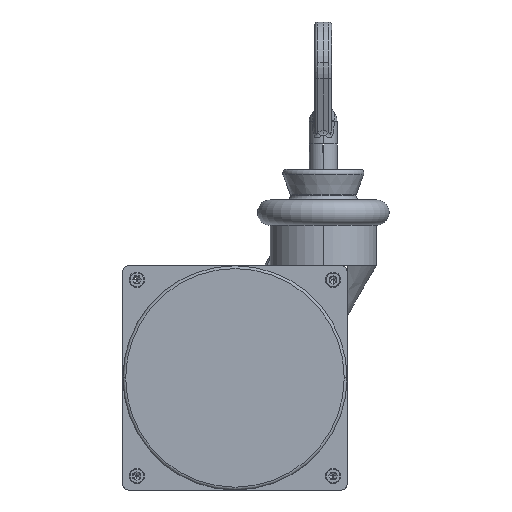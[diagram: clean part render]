
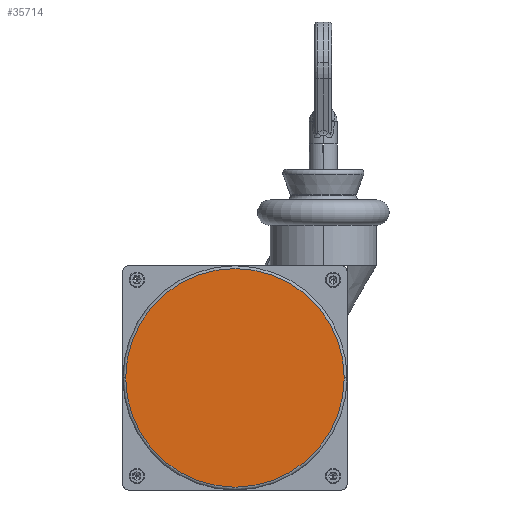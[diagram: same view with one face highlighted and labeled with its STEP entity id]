
A CAD part, front view. The second image highlights one B-rep face of the part: STEP entity #35714.
In plain terms, the highlighted planar face has unit normal (0, -1, 0).
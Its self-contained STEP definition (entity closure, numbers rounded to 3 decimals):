
#1808 = FACE_OUTER_BOUND ( 'NONE', #27441, .T. ) ;
#3585 = DIRECTION ( 'NONE',  ( 0., -1., 0. ) ) ;
#3750 = AXIS2_PLACEMENT_3D ( 'NONE', #10595, #5812, #18066 ) ;
#5812 = DIRECTION ( 'NONE',  ( 0., -1., 0. ) ) ;
#6338 = PLANE ( 'NONE',  #3750 ) ;
#10595 = CARTESIAN_POINT ( 'NONE',  ( 0., -487.5, 0. ) ) ;
#11333 = AXIS2_PLACEMENT_3D ( 'NONE', #12636, #3585, #16105 ) ;
#12171 = CIRCLE ( 'NONE', #11333, 39. ) ;
#12399 = EDGE_CURVE ( 'NONE', #30957, #30143, #12171, .T. ) ;
#12636 = CARTESIAN_POINT ( 'NONE',  ( 0., -487.5, 0. ) ) ;
#16105 = DIRECTION ( 'NONE',  ( 1., 0., 0. ) ) ;
#18066 = DIRECTION ( 'NONE',  ( 1., 0., 0. ) ) ;
#19489 = CARTESIAN_POINT ( 'NONE',  ( -39., -487.5, 0. ) ) ;
#20768 = ORIENTED_EDGE ( 'NONE', *, *, #12399, .T. ) ;
#24631 = CARTESIAN_POINT ( 'NONE',  ( 39., -487.5, 0. ) ) ;
#27441 = EDGE_LOOP ( 'NONE', ( #20768, #39198 ) ) ;
#30143 = VERTEX_POINT ( 'NONE', #19489 ) ;
#30957 = VERTEX_POINT ( 'NONE', #24631 ) ;
#35714 = ADVANCED_FACE ( 'NONE', ( #1808 ), #6338, .T. ) ;
#36634 = AXIS2_PLACEMENT_3D ( 'NONE', #41057, #52268, #40531 ) ;
#38532 = EDGE_CURVE ( 'NONE', #30143, #30957, #48533, .T. ) ;
#39198 = ORIENTED_EDGE ( 'NONE', *, *, #38532, .T. ) ;
#40531 = DIRECTION ( 'NONE',  ( 1., 0., 0. ) ) ;
#41057 = CARTESIAN_POINT ( 'NONE',  ( 0., -487.5, 0. ) ) ;
#48533 = CIRCLE ( 'NONE', #36634, 39. ) ;
#52268 = DIRECTION ( 'NONE',  ( 0., -1., 0. ) ) ;
